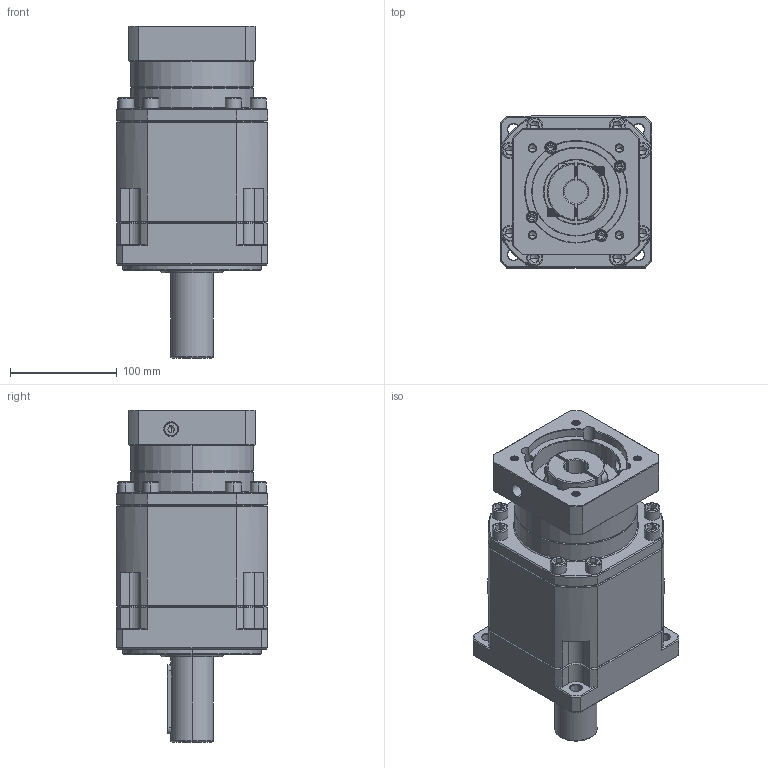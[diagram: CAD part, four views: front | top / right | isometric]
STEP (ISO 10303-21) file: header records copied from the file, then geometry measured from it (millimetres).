
FILE_DESCRIPTION (( 'STEP AP214' ), '1' );
FILE_NAME ('ZB142A-D40-L3-22-95-115-M8.step', '2023-03-18T07:06:12', ( '' ), ( '' ), 'SwSTEP 2.0', 'SolidWorks 2016', '' );
FILE_SCHEMA (( 'AUTOMOTIVE_DESIGN' ));
Length unit declared in the file: millimetre
Products named in the file (1): ZB142A-D40-L3-22-95-115-M8
Bounding box: 142 x 142 x 310.7 mm (x, y, z)
Volume: 3609591.6 mm3; surface area: 252436.1 mm2
Topology: 6 solids, 6 shells, 2280 faces, 5878 edges, 3715 vertices
Faces by surface type: plane 1025, cylinder 497, cone 393, bspline 327, torus 38
Entity records: 120199 total; most frequent: CARTESIAN_POINT 42347, ORIENTED_EDGE 11648, DIRECTION 9857, EDGE_CURVE 5824, VERTEX_POINT 3715, LINE 3591, VECTOR 3591, AXIS2_PLACEMENT_3D 3133
